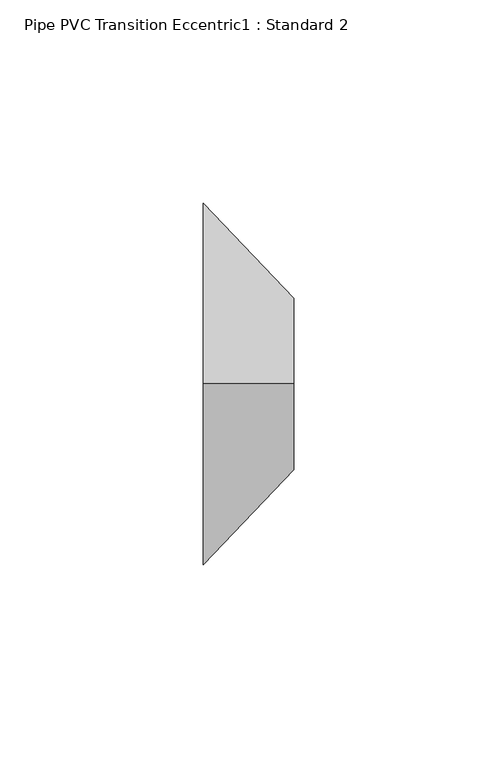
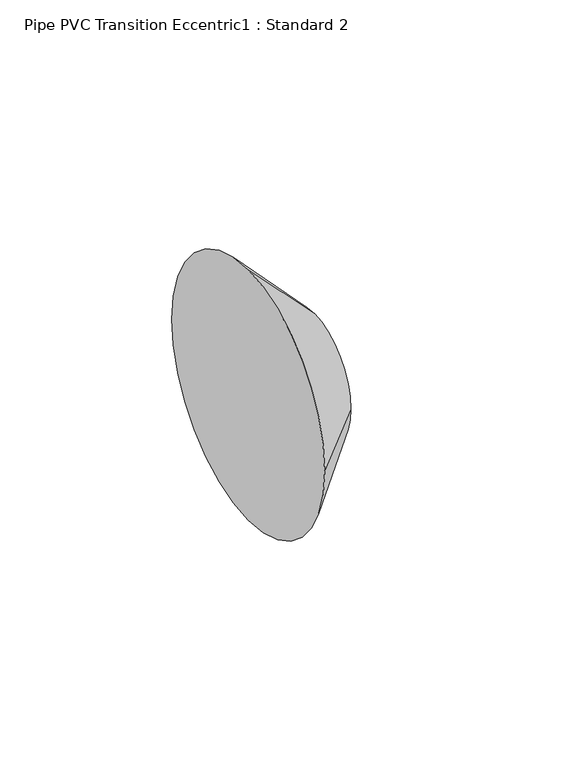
"""IFC4 building model written with IfcOpenShell, lengths in millimetres: pipe fitting geometry, Pipe PVC Transition Eccentric1 : Standard 2."""

from ifc_helpers import new_model, si_unit, frame, origin, place, context, project, spatial, polyline, circle_curve, source, transform, mapped, element, save
from ifc_brep_helpers import plane_surface, revolved_surface, advanced_brep


def pipe_pvc_transition_eccentric1_standard_2_66b067ff(model_context):
    return source(origin(), model_context, "Body", "AdvancedBrep", [
        advanced_brep(
        [(22.225, -65.0875, 21.082), (22.225, -86.1695, 0.0), (22.225, -65.0875, -21.082), (22.225, -44.0055, 0.0), (0.0, -65.0875, 44.45), (0.0, -20.6375, 0.0), (0.0, -65.0875, -44.45), (0.0, -109.5375, 0.0)],
        [
            (0, 1, circle_curve(frame((22.225, -65.0875, 0.0), z_axis=(1.0, 0.0, 0.0), x_axis=(0.0, 0.0, 1.0)), 21.082)),
            (1, 2, circle_curve(frame((22.225, -65.0875, 0.0), z_axis=(1.0, 0.0, 0.0), x_axis=(0.0, -1.0, 0.0)), 21.082)),
            (2, 3, circle_curve(frame((22.225, -65.0875, 0.0), z_axis=(1.0, 0.0, 0.0), x_axis=(0.0, 0.0, -1.0)), 21.082)),
            (3, 0, circle_curve(frame((22.225, -65.0875, 0.0), z_axis=(1.0, 0.0, 0.0), x_axis=(0.0, 1.0, 0.0)), 21.082)),
            (4, 5, circle_curve(frame((0.0, -65.0875, 0.0), z_axis=(-1.0, 0.0, 0.0), x_axis=(0.0, 1.0, 0.0)), 44.45)),
            (5, 6, circle_curve(frame((0.0, -65.0875, 0.0), z_axis=(-1.0, 0.0, 0.0), x_axis=(0.0, 0.0, -1.0)), 44.45)),
            (6, 7, circle_curve(frame((0.0, -65.0875, 0.0), z_axis=(-1.0, 0.0, 0.0), x_axis=(0.0, -1.0, 0.0)), 44.45)),
            (7, 4, circle_curve(frame((0.0, -65.0875, 0.0), z_axis=(-1.0, 0.0, 0.0), x_axis=(0.0, 0.0, 1.0)), 44.45)),
            (7, 1),
            (0, 4),
            (6, 2),
            (5, 3),
        ],
        [
            plane_surface(frame((22.225, -65.0875, 0.0), z_axis=(1.0, 0.0, 0.0), x_axis=(0.0, -1.0, 0.0))),
            plane_surface(frame((0.0, -65.0875, 0.0), z_axis=(-1.0, 0.0, 0.0), x_axis=(0.0, -1.0, 0.0))),
            revolved_surface(polyline([(22.225, -65.0875, 21.081999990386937), (0.0, -65.0875, 44.45)]), (42.2758152, -65.0875, 0.0), (-1.0, 0.0, 0.0)),
            revolved_surface(polyline([(22.225, -86.16949999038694, 0.0), (0.0, -109.5375, 0.0)]), (42.2758152, -65.0875, 0.0), (-1.0, 0.0, 0.0)),
            revolved_surface(polyline([(22.225, -65.0875, -21.081999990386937), (0.0, -65.0875, -44.45)]), (42.2758152, -65.0875, 0.0), (-1.0, 0.0, 0.0)),
            revolved_surface(polyline([(22.225, -44.00550000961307, 0.0), (0.0, -20.637500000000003, 0.0)]), (42.2758152, -65.0875, 0.0), (-1.0, 0.0, 0.0)),
        ],
        [
            (0, [[1, 2, 3, 4]]),
            (1, [[5, 6, 7, 8]]),
            (2, [[-8, 9, -1, 10]]),
            (3, [[-7, 11, -2, -9]]),
            (4, [[-6, 12, -3, -11]]),
            (5, [[-5, -10, -4, -12]]),
        ],
    ),
        advanced_brep(
        [(22.225, -65.0875, 21.082), (22.225, -86.1695, 0.0), (22.225, -65.0875, -21.082), (22.225, -44.0055, 0.0), (0.0, -65.0875, 44.45), (0.0, -20.6375, 0.0), (0.0, -65.0875, -44.45), (0.0, -109.5375, 0.0)],
        [
            (0, 1, circle_curve(frame((22.225, -65.0875, 0.0), z_axis=(1.0, 0.0, 0.0), x_axis=(0.0, 0.0, 1.0)), 21.082)),
            (1, 2, circle_curve(frame((22.225, -65.0875, 0.0), z_axis=(1.0, 0.0, 0.0), x_axis=(0.0, -1.0, 0.0)), 21.082)),
            (2, 3, circle_curve(frame((22.225, -65.0875, 0.0), z_axis=(1.0, 0.0, 0.0), x_axis=(0.0, 0.0, -1.0)), 21.082)),
            (3, 0, circle_curve(frame((22.225, -65.0875, 0.0), z_axis=(1.0, 0.0, 0.0), x_axis=(0.0, 1.0, 0.0)), 21.082)),
            (4, 5, circle_curve(frame((0.0, -65.0875, 0.0), z_axis=(-1.0, 0.0, 0.0), x_axis=(0.0, 1.0, 0.0)), 44.45)),
            (5, 6, circle_curve(frame((0.0, -65.0875, 0.0), z_axis=(-1.0, 0.0, 0.0), x_axis=(0.0, 0.0, -1.0)), 44.45)),
            (6, 7, circle_curve(frame((0.0, -65.0875, 0.0), z_axis=(-1.0, 0.0, 0.0), x_axis=(0.0, -1.0, 0.0)), 44.45)),
            (7, 4, circle_curve(frame((0.0, -65.0875, 0.0), z_axis=(-1.0, 0.0, 0.0), x_axis=(0.0, 0.0, 1.0)), 44.45)),
            (7, 1),
            (0, 4),
            (6, 2),
            (5, 3),
        ],
        [
            plane_surface(frame((22.225, -65.0875, 0.0), z_axis=(1.0, 0.0, 0.0), x_axis=(0.0, -1.0, 0.0))),
            plane_surface(frame((0.0, -65.0875, 0.0), z_axis=(-1.0, 0.0, 0.0), x_axis=(0.0, -1.0, 0.0))),
            revolved_surface(polyline([(22.225, -65.0875, 21.081999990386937), (0.0, -65.0875, 44.45)]), (42.2758152, -65.0875, 0.0), (-1.0, 0.0, 0.0)),
            revolved_surface(polyline([(22.225, -86.16949999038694, 0.0), (0.0, -109.5375, 0.0)]), (42.2758152, -65.0875, 0.0), (-1.0, 0.0, 0.0)),
            revolved_surface(polyline([(22.225, -65.0875, -21.081999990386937), (0.0, -65.0875, -44.45)]), (42.2758152, -65.0875, 0.0), (-1.0, 0.0, 0.0)),
            revolved_surface(polyline([(22.225, -44.00550000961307, 0.0), (0.0, -20.637500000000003, 0.0)]), (42.2758152, -65.0875, 0.0), (-1.0, 0.0, 0.0)),
        ],
        [
            (0, [[1, 2, 3, 4]]),
            (1, [[5, 6, 7, 8]]),
            (2, [[-8, 9, -1, 10]]),
            (3, [[-7, 11, -2, -9]]),
            (4, [[-6, 12, -3, -11]]),
            (5, [[-5, -10, -4, -12]]),
        ],
    ),
    ])


if __name__ == "__main__":
    model = new_model("IFC4")
    model_context = context("Model", 3, world=origin())
    ifc_project = project(units=[si_unit("LENGTHUNIT", "METRE", prefix="MILLI")], contexts=[model_context])
    site = spatial("IfcSite", under=ifc_project)
    building = spatial("IfcBuilding", under=site)
    placement = place(None, origin())
    pipe_pvc_transition_eccentric1_standard_2_shape = pipe_pvc_transition_eccentric1_standard_2_66b067ff(model_context)
    element("IfcPipeFitting", 1, ObjectType="Pipe PVC Transition Eccentric1 : Standard 2", at=placement, inside=building, context=model_context, shape_type="MappedRepresentation", body=[
        mapped(pipe_pvc_transition_eccentric1_standard_2_shape, transform((0.0, 0.0, 0.0), x_axis=(1.0, 0.0, 0.0), y_axis=(0.0, 1.0, 0.0), z_axis=(0.0, 0.0, 1.0))),
    ])
    save(model, "model.ifc")
